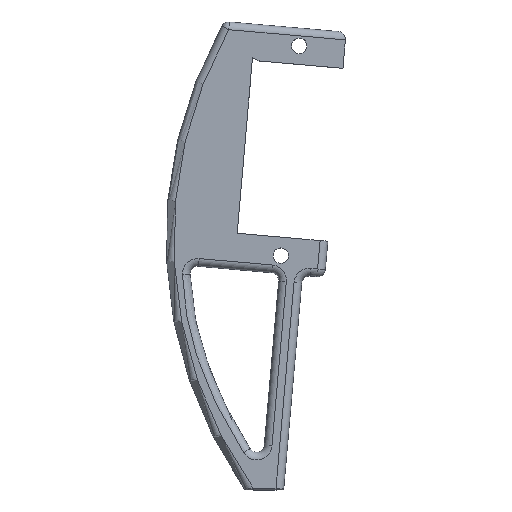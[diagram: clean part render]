
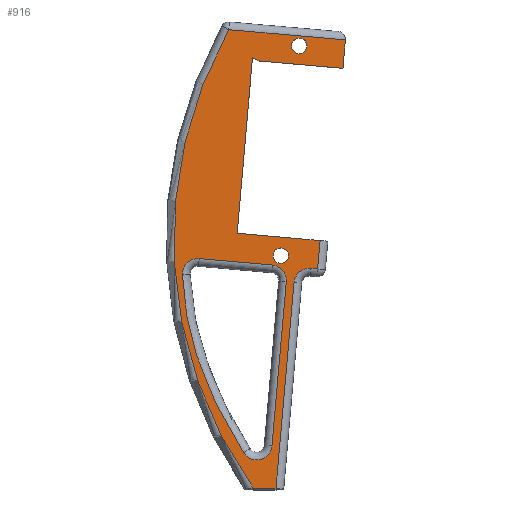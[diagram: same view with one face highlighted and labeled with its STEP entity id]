
A CAD part, top view. The second image highlights one B-rep face of the part: STEP entity #916.
In plain terms, the highlighted planar face has unit normal (0, 0, 1).
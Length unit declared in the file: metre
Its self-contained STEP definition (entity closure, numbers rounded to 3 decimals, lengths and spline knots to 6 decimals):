
#42=B_SPLINE_CURVE_WITH_KNOTS('',3,(#1568,#1569,#1570,#1571,#1572,#1573,
#1574),.UNSPECIFIED.,.F.,.F.,(4,1,1,1,4),(0.,0.006211,0.012423,
0.018634,0.024846),.UNSPECIFIED.);
#77=CIRCLE('',#991,0.001);
#79=CIRCLE('',#997,0.001);
#81=CIRCLE('',#1000,0.002);
#82=CIRCLE('',#1001,0.002);
#83=CIRCLE('',#1002,0.002);
#84=CIRCLE('',#1003,0.055518);
#85=CIRCLE('',#1004,0.002);
#201=ORIENTED_EDGE('',*,*,#470,.T.);
#202=ORIENTED_EDGE('',*,*,#471,.T.);
#203=ORIENTED_EDGE('',*,*,#472,.T.);
#204=ORIENTED_EDGE('',*,*,#473,.F.);
#205=ORIENTED_EDGE('',*,*,#474,.T.);
#206=ORIENTED_EDGE('',*,*,#475,.F.);
#207=ORIENTED_EDGE('',*,*,#476,.T.);
#208=ORIENTED_EDGE('',*,*,#477,.T.);
#209=ORIENTED_EDGE('',*,*,#478,.T.);
#210=ORIENTED_EDGE('',*,*,#479,.F.);
#211=ORIENTED_EDGE('',*,*,#480,.T.);
#212=ORIENTED_EDGE('',*,*,#481,.T.);
#213=ORIENTED_EDGE('',*,*,#432,.F.);
#214=ORIENTED_EDGE('',*,*,#436,.F.);
#215=ORIENTED_EDGE('',*,*,#439,.T.);
#216=ORIENTED_EDGE('',*,*,#442,.T.);
#217=ORIENTED_EDGE('',*,*,#445,.F.);
#218=ORIENTED_EDGE('',*,*,#482,.T.);
#219=ORIENTED_EDGE('',*,*,#454,.F.);
#220=ORIENTED_EDGE('',*,*,#468,.F.);
#432=EDGE_CURVE('',#568,#569,#648,.T.);
#436=EDGE_CURVE('',#571,#568,#651,.T.);
#439=EDGE_CURVE('',#571,#573,#654,.T.);
#442=EDGE_CURVE('',#573,#575,#657,.T.);
#445=EDGE_CURVE('',#577,#575,#660,.T.);
#454=EDGE_CURVE('',#586,#586,#77,.T.);
#468=EDGE_CURVE('',#600,#600,#79,.T.);
#470=EDGE_CURVE('',#602,#603,#673,.T.);
#471=EDGE_CURVE('',#603,#604,#81,.F.);
#472=EDGE_CURVE('',#604,#605,#42,.T.);
#473=EDGE_CURVE('',#606,#605,#82,.T.);
#474=EDGE_CURVE('',#606,#607,#674,.F.);
#475=EDGE_CURVE('',#602,#607,#83,.T.);
#476=EDGE_CURVE('',#608,#609,#84,.T.);
#477=EDGE_CURVE('',#609,#610,#675,.F.);
#478=EDGE_CURVE('',#610,#611,#676,.F.);
#479=EDGE_CURVE('',#612,#611,#85,.T.);
#480=EDGE_CURVE('',#612,#613,#677,.T.);
#481=EDGE_CURVE('',#613,#569,#678,.F.);
#482=EDGE_CURVE('',#577,#608,#679,.T.);
#568=VERTEX_POINT('',#1455);
#569=VERTEX_POINT('',#1457);
#571=VERTEX_POINT('',#1463);
#573=VERTEX_POINT('',#1469);
#575=VERTEX_POINT('',#1475);
#577=VERTEX_POINT('',#1481);
#586=VERTEX_POINT('',#1503);
#600=VERTEX_POINT('',#1559);
#602=VERTEX_POINT('',#1564);
#603=VERTEX_POINT('',#1565);
#604=VERTEX_POINT('',#1567);
#605=VERTEX_POINT('',#1575);
#606=VERTEX_POINT('',#1577);
#607=VERTEX_POINT('',#1579);
#608=VERTEX_POINT('',#1582);
#609=VERTEX_POINT('',#1583);
#610=VERTEX_POINT('',#1585);
#611=VERTEX_POINT('',#1587);
#612=VERTEX_POINT('',#1589);
#613=VERTEX_POINT('',#1591);
#648=LINE('',#1456,#709);
#651=LINE('',#1464,#712);
#654=LINE('',#1470,#715);
#657=LINE('',#1476,#718);
#660=LINE('',#1482,#721);
#673=LINE('',#1563,#734);
#674=LINE('',#1578,#735);
#675=LINE('',#1584,#736);
#676=LINE('',#1586,#737);
#677=LINE('',#1590,#738);
#678=LINE('',#1592,#739);
#679=LINE('',#1593,#740);
#709=VECTOR('',#1134,1.);
#712=VECTOR('',#1141,1.);
#715=VECTOR('',#1146,1.);
#718=VECTOR('',#1151,1.);
#721=VECTOR('',#1156,1.);
#734=VECTOR('',#1197,1.);
#735=VECTOR('',#1202,1.);
#736=VECTOR('',#1207,1.);
#737=VECTOR('',#1208,1.);
#738=VECTOR('',#1211,1.);
#739=VECTOR('',#1212,1.);
#740=VECTOR('',#1213,1.);
#766=EDGE_LOOP('',(#201,#202,#203,#204,#205,#206));
#767=EDGE_LOOP('',(#207,#208,#209,#210,#211,#212,#213,#214,#215,#216,#217,
#218));
#768=EDGE_LOOP('',(#219));
#769=EDGE_LOOP('',(#220));
#835=FACE_BOUND('',#766,.T.);
#836=FACE_BOUND('',#767,.T.);
#837=FACE_BOUND('',#768,.T.);
#838=FACE_BOUND('',#769,.T.);
#898=PLANE('',#999);
#916=ADVANCED_FACE('',(#835,#836,#837,#838),#898,.T.);
#991=AXIS2_PLACEMENT_3D('',#1502,#1173,#1174);
#997=AXIS2_PLACEMENT_3D('',#1558,#1191,#1192);
#999=AXIS2_PLACEMENT_3D('',#1562,#1195,#1196);
#1000=AXIS2_PLACEMENT_3D('',#1566,#1198,#1199);
#1001=AXIS2_PLACEMENT_3D('',#1576,#1200,#1201);
#1002=AXIS2_PLACEMENT_3D('',#1580,#1203,#1204);
#1003=AXIS2_PLACEMENT_3D('',#1581,#1205,#1206);
#1004=AXIS2_PLACEMENT_3D('',#1588,#1209,#1210);
#1134=DIRECTION('',(0.996,-0.087,0.));
#1141=DIRECTION('',(-0.087,-0.996,0.));
#1146=DIRECTION('',(0.906,-0.423,0.));
#1151=DIRECTION('',(0.996,-0.087,0.));
#1156=DIRECTION('',(-0.087,-0.996,0.));
#1173=DIRECTION('',(0.,0.,1.));
#1174=DIRECTION('',(1.,0.,0.));
#1191=DIRECTION('',(0.,0.,1.));
#1192=DIRECTION('',(1.,0.,0.));
#1195=DIRECTION('',(0.,0.,1.));
#1196=DIRECTION('',(1.,0.,0.));
#1197=DIRECTION('',(-0.087,-0.996,0.));
#1198=DIRECTION('',(0.,0.,1.));
#1199=DIRECTION('',(1.,0.,0.));
#1200=DIRECTION('',(0.,0.,1.));
#1201=DIRECTION('',(1.,0.,0.));
#1202=DIRECTION('',(-0.996,0.087,0.));
#1203=DIRECTION('',(0.,0.,1.));
#1204=DIRECTION('',(1.,0.,0.));
#1205=DIRECTION('',(0.,0.,1.));
#1206=DIRECTION('',(1.,0.,0.));
#1207=DIRECTION('',(-1.,0.,0.));
#1208=DIRECTION('',(-0.087,-0.996,0.));
#1209=DIRECTION('',(0.,0.,1.));
#1210=DIRECTION('',(1.,0.,0.));
#1211=DIRECTION('',(0.996,-0.087,0.));
#1212=DIRECTION('',(-0.087,-0.996,0.));
#1213=DIRECTION('',(-0.996,0.087,0.));
#1455=CARTESIAN_POINT('',(-0.021222,0.007557,0.003));
#1456=CARTESIAN_POINT('',(-0.015344,0.007043,0.003));
#1457=CARTESIAN_POINT('',(-0.010463,0.006616,0.003));
#1463=CARTESIAN_POINT('',(-0.019233,0.030292,0.003));
#1464=CARTESIAN_POINT('',(-0.019247,0.030132,0.003));
#1469=CARTESIAN_POINT('',(-0.01838,0.029895,0.003));
#1470=CARTESIAN_POINT('',(-0.018807,0.030093,0.003));
#1475=CARTESIAN_POINT('',(-0.007506,0.028943,0.003));
#1476=CARTESIAN_POINT('',(-0.012943,0.029419,0.003));
#1481=CARTESIAN_POINT('',(-0.007183,0.032629,0.003));
#1482=CARTESIAN_POINT('',(-0.007301,0.031284,0.003));
#1502=CARTESIAN_POINT('',(-0.015554,0.004652,0.003));
#1503=CARTESIAN_POINT('',(-0.014554,0.004652,0.003));
#1558=CARTESIAN_POINT('',(-0.013174,0.031848,0.003));
#1559=CARTESIAN_POINT('',(-0.012174,0.031848,0.003));
#1562=CARTESIAN_POINT('',(-0.018766,0.004642,0.003));
#1563=CARTESIAN_POINT('',(-0.016952,-0.022806,0.003));
#1564=CARTESIAN_POINT('',(-0.014845,0.001277,0.003));
#1565=CARTESIAN_POINT('',(-0.016707,-0.02,0.003));
#1566=CARTESIAN_POINT('',(-0.018699,-0.019826,0.003));
#1567=CARTESIAN_POINT('',(-0.020379,-0.020911,0.003));
#1568=CARTESIAN_POINT('',(-0.020379,-0.020911,0.003));
#1569=CARTESIAN_POINT('',(-0.021503,-0.019172,0.003));
#1570=CARTESIAN_POINT('',(-0.023587,-0.015589,0.003));
#1571=CARTESIAN_POINT('',(-0.02608,-0.009892,0.003));
#1572=CARTESIAN_POINT('',(-0.027761,-0.003936,0.003));
#1573=CARTESIAN_POINT('',(-0.028247,0.000141,0.003));
#1574=CARTESIAN_POINT('',(-0.028313,0.002217,0.003));
#1575=CARTESIAN_POINT('',(-0.028313,0.002217,0.003));
#1576=CARTESIAN_POINT('',(-0.026314,0.002281,0.003));
#1577=CARTESIAN_POINT('',(-0.02614,0.004273,0.003));
#1578=CARTESIAN_POINT('',(-0.018854,0.003636,0.003));
#1579=CARTESIAN_POINT('',(-0.016663,0.003444,0.003));
#1580=CARTESIAN_POINT('',(-0.016837,0.001452,0.003));
#1581=CARTESIAN_POINT('',(0.026082,0.006722,0.003));
#1582=CARTESIAN_POINT('',(-0.0223,0.033952,0.003));
#1583=CARTESIAN_POINT('',(-0.019151,-0.025469,0.003));
#1584=CARTESIAN_POINT('',(-0.018766,-0.025469,0.003));
#1585=CARTESIAN_POINT('',(-0.016181,-0.025469,0.003));
#1586=CARTESIAN_POINT('',(-0.013586,0.004189,0.003));
#1587=CARTESIAN_POINT('',(-0.013849,0.00119,0.003));
#1588=CARTESIAN_POINT('',(-0.011856,0.001016,0.003));
#1589=CARTESIAN_POINT('',(-0.011682,0.003008,0.003));
#1590=CARTESIAN_POINT('',(-0.009789,0.002843,0.003));
#1591=CARTESIAN_POINT('',(-0.010785,0.00293,0.003));
#1592=CARTESIAN_POINT('',(-0.010697,0.003936,0.003));
#1593=CARTESIAN_POINT('',(-0.022938,0.034007,0.003));
